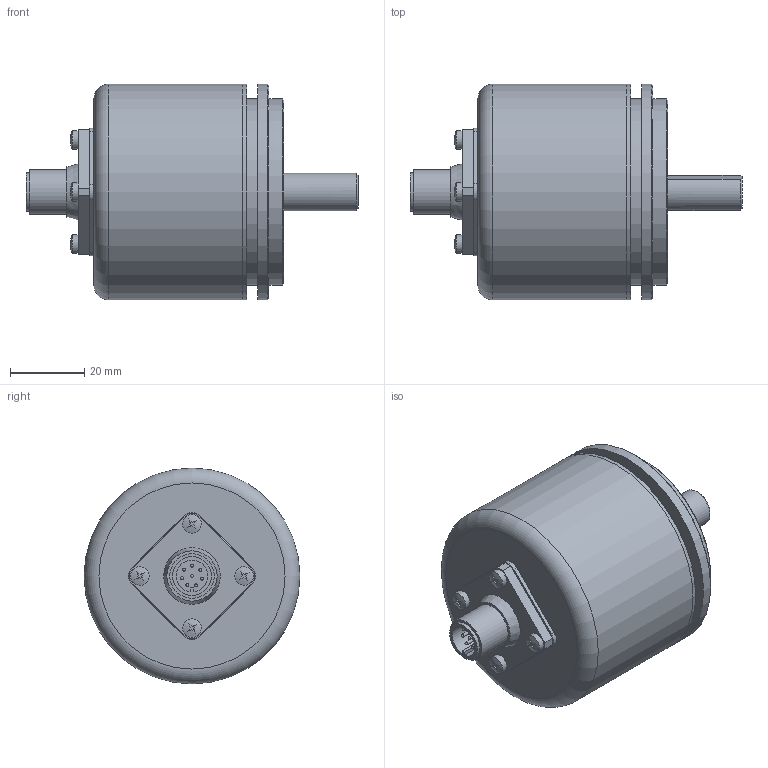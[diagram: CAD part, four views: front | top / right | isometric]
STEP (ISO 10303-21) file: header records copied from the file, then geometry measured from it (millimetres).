
FILE_DESCRIPTION (( 'STEP AP214' ), '1' );
FILE_NAME ('8.5805.22XT.XXXX.STEP', '2016-12-07T12:54:16', ( 'HeirlerN' ), ( 'Microsoft' ), 'SwSTEP 2.0', 'SolidWorks 2013', '' );
FILE_SCHEMA (( 'AUTOMOTIVE_DESIGN' ));
Length unit declared in the file: millimetre
Products named in the file (1): 8.5805.22XT.XXXX
Bounding box: 89.2 x 58 x 58 mm (x, y, z)
Volume: 63707.9 mm3; surface area: 41913 mm2
Topology: 11 solids, 11 shells, 269 faces, 586 edges, 381 vertices
Faces by surface type: plane 110, cylinder 71, cone 45, bspline 28, sphere 12, torus 3
Full cylindrical faces by diameter (mm): 0.8 x8, 2.5 x4, 2.7 x12, 3.04 x3, 3.3 x3, 5 x5, 10 x3, 10.5 x2, 12 x1, 14 x1, 14.3 x1, 17 x1, 20 x1, 21.6 x1, 22.3 x1, 23 x1, 26 x2, 50 x2, 52.5 x1, 55 x2, 56 x5, 58 x3
Entity records: 10691 total; most frequent: CARTESIAN_POINT 2539, DIRECTION 1084, ORIENTED_EDGE 832, EDGE_LOOP 471, AXIS2_PLACEMENT_3D 464, EDGE_CURVE 416, VERTEX_POINT 337, FACE_OUTER_BOUND 327
